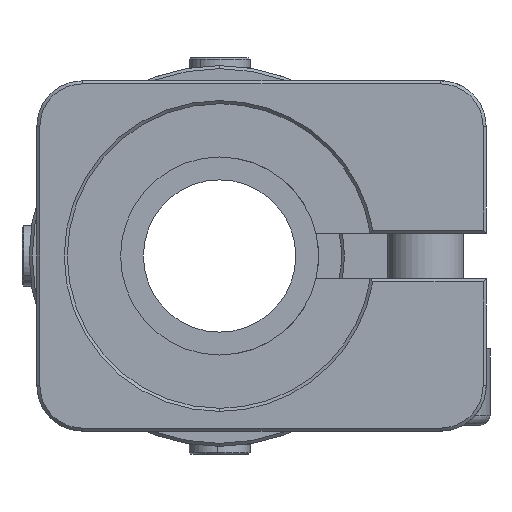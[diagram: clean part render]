
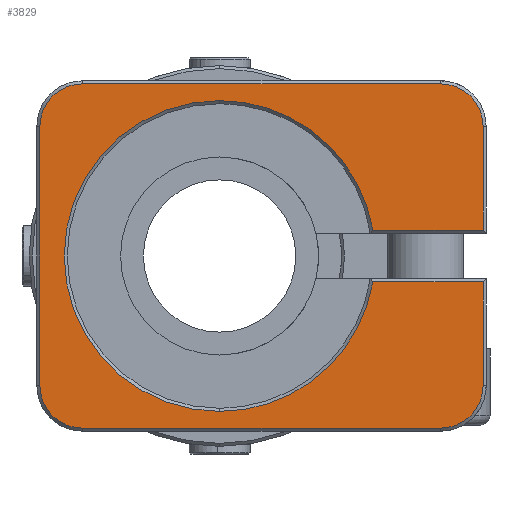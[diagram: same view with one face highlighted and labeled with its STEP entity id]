
A CAD part, front view. The second image highlights one B-rep face of the part: STEP entity #3829.
In plain terms, the highlighted planar face has unit normal (0, -1, 0).
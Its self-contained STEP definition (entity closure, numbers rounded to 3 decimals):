
#37 = CARTESIAN_POINT ( 'NONE',  ( -3.311, -10.65, 33.3 ) ) ;
#143 = ORIENTED_EDGE ( 'NONE', *, *, #11557, .T. ) ;
#392 = LINE ( 'NONE', #1526, #9929 ) ;
#418 = CARTESIAN_POINT ( 'NONE',  ( 6.747, -10.65, 36.7 ) ) ;
#423 = ORIENTED_EDGE ( 'NONE', *, *, #5844, .T. ) ;
#427 = CIRCLE ( 'NONE', #3493, 10.2 ) ;
#446 = EDGE_CURVE ( 'NONE', #9181, #5870, #1252, .T. ) ;
#708 = CIRCLE ( 'NONE', #5623, 2.8 ) ;
#715 = CARTESIAN_POINT ( 'NONE',  ( -3.311, -10.65, 24.8 ) ) ;
#836 = CARTESIAN_POINT ( 'NONE',  ( 13.989, -10.65, 36.7 ) ) ;
#889 = ORIENTED_EDGE ( 'NONE', *, *, #6103, .T. ) ;
#951 = VECTOR ( 'NONE', #3466, 1000. ) ;
#953 = DIRECTION ( 'NONE',  ( 0., 1., 0. ) ) ;
#1139 = CARTESIAN_POINT ( 'NONE',  ( -3.311, -10.65, 35. ) ) ;
#1252 = LINE ( 'NONE', #4930, #951 ) ;
#1471 = ORIENTED_EDGE ( 'NONE', *, *, #446, .T. ) ;
#1526 = CARTESIAN_POINT ( 'NONE',  ( -3.311, -10.65, 36.7 ) ) ;
#1555 = VERTEX_POINT ( 'NONE', #4684 ) ;
#1562 = CARTESIAN_POINT ( 'NONE',  ( 13.989, -10.65, 35. ) ) ;
#1718 = AXIS2_PLACEMENT_3D ( 'NONE', #6403, #953, #7329 ) ;
#1772 = CARTESIAN_POINT ( 'NONE',  ( -12.311, -10.65, 43.5 ) ) ;
#1801 = DIRECTION ( 'NONE',  ( 0., 1., 0. ) ) ;
#2005 = VERTEX_POINT ( 'NONE', #8702 ) ;
#2053 = DIRECTION ( 'NONE',  ( 0., 0., 1. ) ) ;
#2126 = ORIENTED_EDGE ( 'NONE', *, *, #11149, .T. ) ;
#2286 = ORIENTED_EDGE ( 'NONE', *, *, #5507, .T. ) ;
#2548 = VERTEX_POINT ( 'NONE', #10636 ) ;
#2611 = DIRECTION ( 'NONE',  ( 0., -1., 0. ) ) ;
#2637 = CIRCLE ( 'NONE', #5790, 10.2 ) ;
#2678 = DIRECTION ( 'NONE',  ( 0., 0., 1. ) ) ;
#2825 = EDGE_CURVE ( 'NONE', #10786, #5567, #4344, .T. ) ;
#2915 = ORIENTED_EDGE ( 'NONE', *, *, #9133, .T. ) ;
#3018 = DIRECTION ( 'NONE',  ( 0., -1., 0. ) ) ;
#3036 = CIRCLE ( 'NONE', #7779, 10.2 ) ;
#3142 = EDGE_CURVE ( 'NONE', #2548, #1555, #11820, .T. ) ;
#3210 = ORIENTED_EDGE ( 'NONE', *, *, #4736, .T. ) ;
#3407 = CARTESIAN_POINT ( 'NONE',  ( 11.189, -10.65, 23.7 ) ) ;
#3411 = LINE ( 'NONE', #1562, #5528 ) ;
#3424 = DIRECTION ( 'NONE',  ( 0., 0., 1. ) ) ;
#3466 = DIRECTION ( 'NONE',  ( 0., 0., 1. ) ) ;
#3493 = AXIS2_PLACEMENT_3D ( 'NONE', #1139, #7501, #2053 ) ;
#3638 = VECTOR ( 'NONE', #8125, 1000. ) ;
#3649 = CARTESIAN_POINT ( 'NONE',  ( 13.989, -10.65, 43.5 ) ) ;
#3757 = CARTESIAN_POINT ( 'NONE',  ( -3.311, -10.65, 35. ) ) ;
#3829 = ADVANCED_FACE ( 'NONE', ( #9299 ), #11937, .F. ) ;
#4116 = CARTESIAN_POINT ( 'NONE',  ( 11.189, -10.65, 26.5 ) ) ;
#4344 = LINE ( 'NONE', #37, #11396 ) ;
#4352 = DIRECTION ( 'NONE',  ( 1., 0., 0. ) ) ;
#4469 = VECTOR ( 'NONE', #10164, 1000. ) ;
#4684 = CARTESIAN_POINT ( 'NONE',  ( -15.111, -10.65, 26.5 ) ) ;
#4687 = DIRECTION ( 'NONE',  ( 0., 0., 1. ) ) ;
#4736 = EDGE_CURVE ( 'NONE', #9036, #2005, #10963, .T. ) ;
#4930 = CARTESIAN_POINT ( 'NONE',  ( 13.989, -10.65, 35. ) ) ;
#5017 = DIRECTION ( 'NONE',  ( 0., 0., 1. ) ) ;
#5092 = CARTESIAN_POINT ( 'NONE',  ( -3.311, -10.65, 45.2 ) ) ;
#5127 = ORIENTED_EDGE ( 'NONE', *, *, #7609, .T. ) ;
#5148 = CARTESIAN_POINT ( 'NONE',  ( 13.989, -10.65, 33.3 ) ) ;
#5170 = CARTESIAN_POINT ( 'NONE',  ( 13.989, -10.65, 26.5 ) ) ;
#5178 = VERTEX_POINT ( 'NONE', #5092 ) ;
#5431 = EDGE_LOOP ( 'NONE', ( #1471, #5127, #3210, #2915, #5583, #143, #2286, #2126, #7201, #6802, #423, #889, #11667, #7421 ) ) ;
#5454 = DIRECTION ( 'NONE',  ( -1., 0., 0. ) ) ;
#5507 = EDGE_CURVE ( 'NONE', #10508, #9215, #6631, .T. ) ;
#5528 = VECTOR ( 'NONE', #3424, 1000. ) ;
#5567 = VERTEX_POINT ( 'NONE', #7583 ) ;
#5583 = ORIENTED_EDGE ( 'NONE', *, *, #3142, .T. ) ;
#5623 = AXIS2_PLACEMENT_3D ( 'NONE', #4116, #10561, #5017 ) ;
#5725 = AXIS2_PLACEMENT_3D ( 'NONE', #8099, #2611, #9031 ) ;
#5790 = AXIS2_PLACEMENT_3D ( 'NONE', #7256, #1801, #8213 ) ;
#5844 = EDGE_CURVE ( 'NONE', #5567, #6736, #2637, .T. ) ;
#5870 = VERTEX_POINT ( 'NONE', #3649 ) ;
#6103 = EDGE_CURVE ( 'NONE', #6736, #5178, #3036, .T. ) ;
#6403 = CARTESIAN_POINT ( 'NONE',  ( -3.311, -10.65, 35. ) ) ;
#6414 = EDGE_CURVE ( 'NONE', #11165, #9181, #392, .T. ) ;
#6631 = LINE ( 'NONE', #8463, #11587 ) ;
#6736 = VERTEX_POINT ( 'NONE', #715 ) ;
#6795 = CIRCLE ( 'NONE', #5725, 2.8 ) ;
#6802 = ORIENTED_EDGE ( 'NONE', *, *, #2825, .T. ) ;
#7201 = ORIENTED_EDGE ( 'NONE', *, *, #7553, .T. ) ;
#7256 = CARTESIAN_POINT ( 'NONE',  ( -3.311, -10.65, 35. ) ) ;
#7329 = DIRECTION ( 'NONE',  ( 0., 0., 1. ) ) ;
#7421 = ORIENTED_EDGE ( 'NONE', *, *, #6414, .T. ) ;
#7501 = DIRECTION ( 'NONE',  ( 0., 1., 0. ) ) ;
#7553 = EDGE_CURVE ( 'NONE', #11266, #10786, #3411, .T. ) ;
#7583 = CARTESIAN_POINT ( 'NONE',  ( 6.747, -10.65, 33.3 ) ) ;
#7609 = EDGE_CURVE ( 'NONE', #5870, #9036, #6795, .T. ) ;
#7779 = AXIS2_PLACEMENT_3D ( 'NONE', #3757, #10194, #4687 ) ;
#7851 = CIRCLE ( 'NONE', #10737, 2.8 ) ;
#8099 = CARTESIAN_POINT ( 'NONE',  ( 11.189, -10.65, 43.5 ) ) ;
#8125 = DIRECTION ( 'NONE',  ( -1., 0., 0. ) ) ;
#8178 = DIRECTION ( 'NONE',  ( 0., -1., 0. ) ) ;
#8213 = DIRECTION ( 'NONE',  ( 0., 0., 1. ) ) ;
#8463 = CARTESIAN_POINT ( 'NONE',  ( -3.311, -10.65, 23.7 ) ) ;
#8521 = CARTESIAN_POINT ( 'NONE',  ( -12.311, -10.65, 26.5 ) ) ;
#8702 = CARTESIAN_POINT ( 'NONE',  ( -12.311, -10.65, 46.3 ) ) ;
#8945 = CARTESIAN_POINT ( 'NONE',  ( 11.189, -10.65, 46.3 ) ) ;
#9031 = DIRECTION ( 'NONE',  ( 0., 0., 1. ) ) ;
#9036 = VERTEX_POINT ( 'NONE', #8945 ) ;
#9059 = CARTESIAN_POINT ( 'NONE',  ( -3.311, -10.65, 46.3 ) ) ;
#9133 = EDGE_CURVE ( 'NONE', #2005, #2548, #10178, .T. ) ;
#9181 = VERTEX_POINT ( 'NONE', #836 ) ;
#9215 = VERTEX_POINT ( 'NONE', #3407 ) ;
#9299 = FACE_OUTER_BOUND ( 'NONE', #5431, .T. ) ;
#9410 = DIRECTION ( 'NONE',  ( 1., 0., 0. ) ) ;
#9475 = DIRECTION ( 'NONE',  ( 0., 0., 1. ) ) ;
#9929 = VECTOR ( 'NONE', #4352, 1000. ) ;
#10164 = DIRECTION ( 'NONE',  ( 0., 0., -1. ) ) ;
#10178 = CIRCLE ( 'NONE', #10764, 2.8 ) ;
#10194 = DIRECTION ( 'NONE',  ( 0., 1., 0. ) ) ;
#10508 = VERTEX_POINT ( 'NONE', #11056 ) ;
#10561 = DIRECTION ( 'NONE',  ( 0., -1., 0. ) ) ;
#10618 = EDGE_CURVE ( 'NONE', #5178, #11165, #427, .T. ) ;
#10636 = CARTESIAN_POINT ( 'NONE',  ( -15.111, -10.65, 43.5 ) ) ;
#10737 = AXIS2_PLACEMENT_3D ( 'NONE', #8521, #3018, #9475 ) ;
#10764 = AXIS2_PLACEMENT_3D ( 'NONE', #1772, #8178, #2678 ) ;
#10786 = VERTEX_POINT ( 'NONE', #5148 ) ;
#10963 = LINE ( 'NONE', #9059, #3638 ) ;
#11056 = CARTESIAN_POINT ( 'NONE',  ( -12.311, -10.65, 23.7 ) ) ;
#11084 = CARTESIAN_POINT ( 'NONE',  ( -15.111, -10.65, 35. ) ) ;
#11149 = EDGE_CURVE ( 'NONE', #9215, #11266, #708, .T. ) ;
#11165 = VERTEX_POINT ( 'NONE', #418 ) ;
#11266 = VERTEX_POINT ( 'NONE', #5170 ) ;
#11396 = VECTOR ( 'NONE', #5454, 1000. ) ;
#11557 = EDGE_CURVE ( 'NONE', #1555, #10508, #7851, .T. ) ;
#11587 = VECTOR ( 'NONE', #9410, 1000. ) ;
#11667 = ORIENTED_EDGE ( 'NONE', *, *, #10618, .T. ) ;
#11820 = LINE ( 'NONE', #11084, #4469 ) ;
#11937 = PLANE ( 'NONE',  #1718 ) ;
